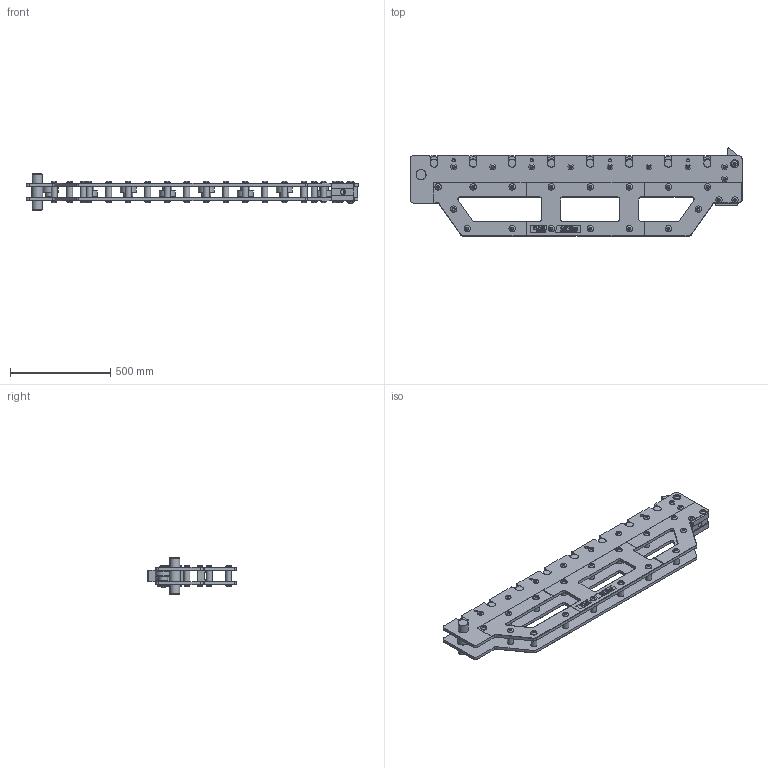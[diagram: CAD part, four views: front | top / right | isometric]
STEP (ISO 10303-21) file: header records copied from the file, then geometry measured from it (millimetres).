
FILE_DESCRIPTION(/* description */ ('CONSOLE PLATE'),/* implementation_level */ '2;1');
FILE_NAME(/* name */ 'C:\Users\jaccow\AppData\Local\Temp\Cadac\NetworkPub\step\FB804-950.iam.stp',/* time_stamp */ '2017-12-13T14:55:41+01:00',/* author */ ('terlouwm'),/* organization */ (''),/* preprocessor_version */ 'ST-DEVELOPER v16.1',/* originating_system */ 'Autodesk Inventor 2016',/* authorisation */ '');
FILE_SCHEMA (('AUTOMOTIVE_DESIGN { 1 0 10303 214 3 1 1 }'));
Products named in the file (16): FB806-101; FB968-026; FB764-186; FB766-044; FB770-104; FB768-104; EU080178-309; FB776-104; FB779-690; FB807-101; CBE1627-0281E; PP0489-996; CAE1160-1081A; CY148-055; FB969-026; FB804-950
Assembly tree (121 placements, depth 2):
  FB804-950
    FB806-101  x2
    FB968-026
    FB764-186  x25
    FB766-044
    FB770-104
    FB768-104
    EU080178-309  x8
    FB776-104  x8
    FB779-690
    FB807-101  x2
    CBE1627-0281E  x60
    PP0489-996  x2
    CAE1160-1081A  x4
    CY148-055  x4
    FB969-026
Bounding box: 1657 x 440.02 x 180 mm (x, y, z)
Volume: 18762601.6 mm3; surface area: 4167619.6 mm2
Topology: 157 solids, 157 shells, 4094 faces, 10011 edges, 6558 vertices
Faces by surface type: plane 2381, cylinder 635, bspline 634, cone 228, torus 216
Full cylindrical faces by diameter (mm): 3 x8, 4.005 x8, 13.835 x32, 16 x60, 16.5 x66, 17 x6, 21.5 x1, 28 x60, 29.95 x1, 30 x31, 30.1 x1, 32 x28, 40 x18, 45 x8, 49.56 x8, 50 x4, 55 x1, 57.57 x8, 66 x32, 69.5 x16, 80 x8
Entity records: 81610 total; most frequent: CARTESIAN_POINT 23535, ORIENTED_EDGE 12598, DIRECTION 9306, EDGE_CURVE 6290, LINE 4528, VECTOR 4528, VERTEX_POINT 4266, EDGE_LOOP 2935
